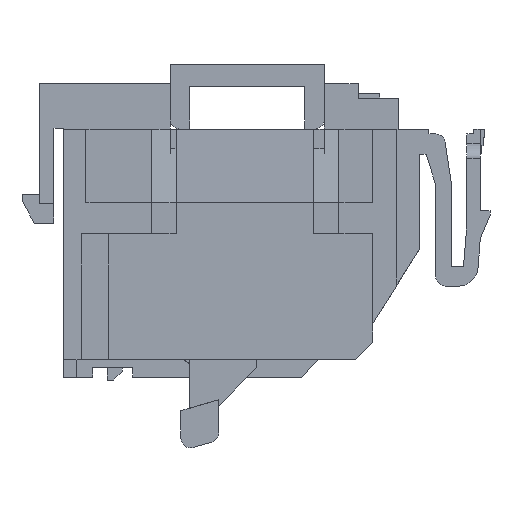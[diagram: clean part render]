
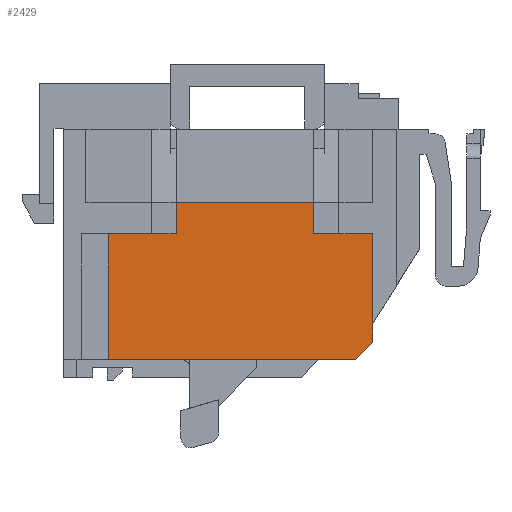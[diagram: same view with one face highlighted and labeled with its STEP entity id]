
A CAD part, front view. The second image highlights one B-rep face of the part: STEP entity #2429.
In plain terms, the highlighted planar face has unit normal (0, -1, 0).
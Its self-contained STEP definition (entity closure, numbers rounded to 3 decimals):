
#395=LINE('',#8439,#1210);
#415=LINE('',#8479,#1230);
#495=LINE('',#8629,#1310);
#553=LINE('',#8744,#1368);
#556=LINE('',#8750,#1371);
#743=LINE('',#9116,#1558);
#745=LINE('',#9120,#1560);
#754=LINE('',#9135,#1569);
#760=LINE('',#9146,#1575);
#761=LINE('',#9148,#1576);
#762=LINE('',#9150,#1577);
#763=LINE('',#9152,#1578);
#1210=VECTOR('',#6833,1.);
#1230=VECTOR('',#6861,1.);
#1310=VECTOR('',#6979,1.);
#1368=VECTOR('',#7069,1.);
#1371=VECTOR('',#7074,1.);
#1558=VECTOR('',#7385,1.);
#1560=VECTOR('',#7389,1.);
#1569=VECTOR('',#7410,1.);
#1575=VECTOR('',#7426,1.);
#1576=VECTOR('',#7429,1.);
#1577=VECTOR('',#7430,1.);
#1578=VECTOR('',#7431,1.);
#1872=PLANE('',#6158);
#2148=FACE_OUTER_BOUND('',#2733,.T.);
#2429=ADVANCED_FACE('',(#2148),#1872,.T.);
#2733=EDGE_LOOP('',(#3997,#3998,#3999,#4000,#4001,#4002,#4003,#4004,#4005,
#4006,#4007,#4008));
#3997=ORIENTED_EDGE('',*,*,#5773,.T.);
#3998=ORIENTED_EDGE('',*,*,#5421,.T.);
#3999=ORIENTED_EDGE('',*,*,#5788,.T.);
#4000=ORIENTED_EDGE('',*,*,#5771,.T.);
#4001=ORIENTED_EDGE('',*,*,#5521,.F.);
#4002=ORIENTED_EDGE('',*,*,#5789,.T.);
#4003=ORIENTED_EDGE('',*,*,#5790,.T.);
#4004=ORIENTED_EDGE('',*,*,#5791,.T.);
#4005=ORIENTED_EDGE('',*,*,#5582,.T.);
#4006=ORIENTED_EDGE('',*,*,#5579,.T.);
#4007=ORIENTED_EDGE('',*,*,#5782,.T.);
#4008=ORIENTED_EDGE('',*,*,#5441,.T.);
#4778=VERTEX_POINT('',#8429);
#4783=VERTEX_POINT('',#8438);
#4794=VERTEX_POINT('',#8469);
#4799=VERTEX_POINT('',#8478);
#4850=VERTEX_POINT('',#8628);
#4851=VERTEX_POINT('',#8630);
#4892=VERTEX_POINT('',#8745);
#4893=VERTEX_POINT('',#8746);
#4894=VERTEX_POINT('',#8751);
#5011=VERTEX_POINT('',#9117);
#5012=VERTEX_POINT('',#9149);
#5013=VERTEX_POINT('',#9151);
#5421=EDGE_CURVE('',#4778,#4783,#395,.T.);
#5441=EDGE_CURVE('',#4794,#4799,#415,.T.);
#5521=EDGE_CURVE('',#4850,#4851,#495,.T.);
#5579=EDGE_CURVE('',#4892,#4893,#553,.T.);
#5582=EDGE_CURVE('',#4894,#4892,#556,.T.);
#5771=EDGE_CURVE('',#5011,#4851,#743,.T.);
#5773=EDGE_CURVE('',#4799,#4778,#745,.T.);
#5782=EDGE_CURVE('',#4893,#4794,#754,.T.);
#5788=EDGE_CURVE('',#4783,#5011,#760,.T.);
#5789=EDGE_CURVE('',#4850,#5012,#761,.T.);
#5790=EDGE_CURVE('',#5012,#5013,#762,.T.);
#5791=EDGE_CURVE('',#5013,#4894,#763,.T.);
#6158=AXIS2_PLACEMENT_3D('',#9153,#7432,#7433);
#6833=DIRECTION('',(-1.,0.,0.));
#6861=DIRECTION('',(-1.,0.,0.));
#6979=DIRECTION('',(0.,0.,1.));
#7069=DIRECTION('',(-1.,0.,0.));
#7074=DIRECTION('',(0.,0.,1.));
#7385=DIRECTION('',(-1.,0.,0.));
#7389=DIRECTION('',(-1.,0.,0.));
#7410=DIRECTION('',(0.,0.,1.));
#7426=DIRECTION('',(0.,0.,-1.));
#7429=DIRECTION('',(1.,0.,0.));
#7430=DIRECTION('',(0.707,0.,0.707));
#7431=DIRECTION('',(0.,0.,1.));
#7432=DIRECTION('',(0.,-1.,0.));
#7433=DIRECTION('',(0.,0.,-1.));
#8429=CARTESIAN_POINT('',(-16.4,-309.,-12.3));
#8438=CARTESIAN_POINT('',(-23.,-309.,-12.3));
#8439=CARTESIAN_POINT('',(4.8,-309.,-12.3));
#8469=CARTESIAN_POINT('',(-8.8,-309.,-12.3));
#8478=CARTESIAN_POINT('',(-15.4,-309.,-12.3));
#8479=CARTESIAN_POINT('',(4.8,-309.,-12.3));
#8628=CARTESIAN_POINT('',(-30.,-309.,-28.5));
#8629=CARTESIAN_POINT('',(-30.,-309.,-28.5));
#8630=CARTESIAN_POINT('',(-30.,-309.,-15.5));
#8744=CARTESIAN_POINT('',(4.8,-309.,-15.5));
#8745=CARTESIAN_POINT('',(-2.7,-309.,-15.5));
#8746=CARTESIAN_POINT('',(-8.8,-309.,-15.5));
#8750=CARTESIAN_POINT('',(-2.7,-309.,-19.9));
#8751=CARTESIAN_POINT('',(-2.7,-309.,-24.792));
#9116=CARTESIAN_POINT('',(4.8,-309.,-15.5));
#9117=CARTESIAN_POINT('',(-23.,-309.,-15.5));
#9120=CARTESIAN_POINT('',(4.8,-309.,-12.3));
#9135=CARTESIAN_POINT('',(-8.8,-309.,-19.9));
#9146=CARTESIAN_POINT('',(-23.,-309.,-19.9));
#9148=CARTESIAN_POINT('',(-34.6,-309.,-28.5));
#9149=CARTESIAN_POINT('',(-4.5,-309.,-28.5));
#9150=CARTESIAN_POINT('',(-4.5,-309.,-28.5));
#9151=CARTESIAN_POINT('',(-2.7,-309.,-26.7));
#9152=CARTESIAN_POINT('',(-2.7,-309.,-26.7));
#9153=CARTESIAN_POINT('',(4.8,-309.,-19.9));
